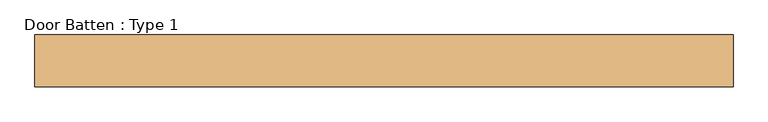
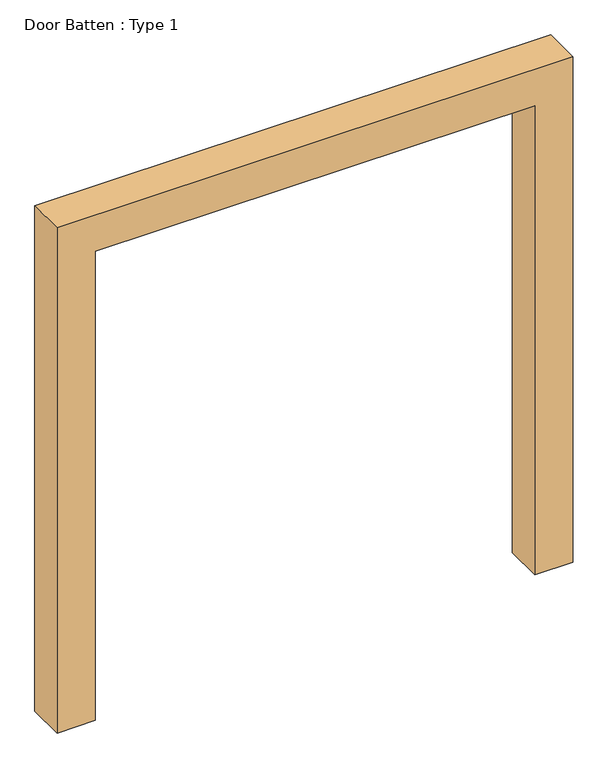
"""IFC4 building model written with IfcOpenShell, lengths in millimetres: door geometry, Door Batten : Type 1."""

from ifc_helpers import new_model, si_unit, frame, origin, place, context, project, spatial, polyline, outline, extrude, source, transform, mapped, element, save


def door_batten_type_1_cc625f3b(model_context):
    return source(origin(), model_context, "Body", "SweptSolid", [
        extrude(outline(polyline([(2708.8484214, -1223.3759057), (-80.8852456, -1223.3759057), (-80.8852456, -1023.3759057), (2508.8484214, -1023.3759057), (2508.8484214, 1273.3759057), (-80.8852456, 1273.3759057), (-80.8852456, 1473.3759057), (2708.8484214, 1473.3759057), (2708.8484214, -1223.3759057)])), frame((0.0, -310.0, 0.0), z_axis=(0.0, 1.0, 0.0), x_axis=(0.0, 0.0, 1.0)), (0.0, 0.0, 1.0), 200.0),
    ])


if __name__ == "__main__":
    model = new_model("IFC4")
    model_context = context("Model", 3, world=origin())
    ifc_project = project(units=[si_unit("LENGTHUNIT", "METRE", prefix="MILLI")], contexts=[model_context])
    site = spatial("IfcSite", under=ifc_project)
    building = spatial("IfcBuilding", under=site)
    placement = place(None, origin())
    door_batten_type_1_shape = door_batten_type_1_cc625f3b(model_context)
    element("IfcDoor", 1, ObjectType="Door Batten : Type 1", at=placement, inside=building, context=model_context, shape_type="MappedRepresentation", body=[
        mapped(door_batten_type_1_shape, transform((0.0, 0.0, 0.0), x_axis=(1.0, 0.0, 0.0), y_axis=(0.0, 1.0, 0.0), z_axis=(0.0, 0.0, 1.0))),
    ])
    save(model, "model.ifc")
